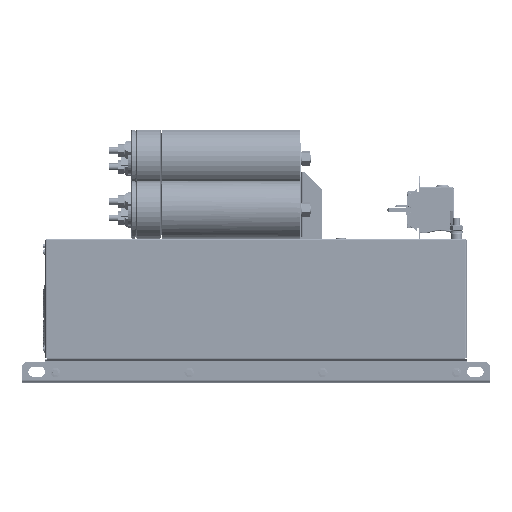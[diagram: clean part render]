
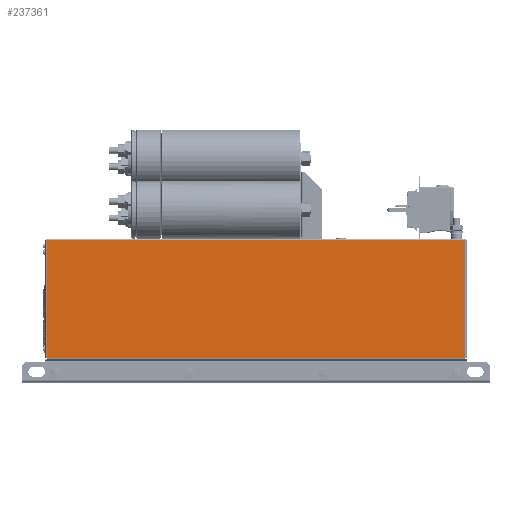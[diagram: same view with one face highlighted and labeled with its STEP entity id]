
A CAD part, left-side view. The second image highlights one B-rep face of the part: STEP entity #237361.
In plain terms, the highlighted planar face has unit normal (-1, 0, 0).
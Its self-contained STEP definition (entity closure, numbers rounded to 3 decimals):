
#13597=PLANE('',#252326);
#19286=FACE_OUTER_BOUND('',#33712,.T.);
#33712=EDGE_LOOP('',(#151687,#151688,#151689,#151690));
#48879=LINE('',#348165,#66819);
#49213=LINE('',#349051,#67153);
#49278=LINE('',#349749,#67218);
#49279=LINE('',#349750,#67219);
#66819=VECTOR('',#279083,10.);
#67153=VECTOR('',#279603,10.);
#67218=VECTOR('',#279776,10.);
#67219=VECTOR('',#279777,10.);
#93707=VERTEX_POINT('',#348158);
#93710=VERTEX_POINT('',#348163);
#94042=VERTEX_POINT('',#349037);
#94120=VERTEX_POINT('',#349748);
#115185=EDGE_CURVE('',#93707,#93710,#48879,.T.);
#115568=EDGE_CURVE('',#93710,#94042,#49213,.T.);
#115677=EDGE_CURVE('',#93707,#94120,#49278,.T.);
#115678=EDGE_CURVE('',#94120,#94042,#49279,.T.);
#151687=ORIENTED_EDGE('',*,*,#115677,.F.);
#151688=ORIENTED_EDGE('',*,*,#115185,.T.);
#151689=ORIENTED_EDGE('',*,*,#115568,.T.);
#151690=ORIENTED_EDGE('',*,*,#115678,.F.);
#237361=ADVANCED_FACE('',(#19286),#13597,.F.);
#252326=AXIS2_PLACEMENT_3D('',#349747,#279774,#279775);
#279083=DIRECTION('',(0.,1.,0.));
#279603=DIRECTION('',(0.,0.,-1.));
#279774=DIRECTION('center_axis',(1.,0.,0.));
#279775=DIRECTION('ref_axis',(0.,0.,
-1.));
#279776=DIRECTION('',(0.,0.,-1.));
#279777=DIRECTION('',(0.,1.,0.));
#348158=CARTESIAN_POINT('',(-225.,-312.7,212.7));
#348163=CARTESIAN_POINT('',(-225.,312.7,212.7));
#348165=CARTESIAN_POINT('',(-225.,315.,212.7));
#349037=CARTESIAN_POINT('',(-225.,312.7,36.353));
#349051=CARTESIAN_POINT('',(-225.,312.7,116.05));
#349747=CARTESIAN_POINT('Origin',(-225.,-315.,35.4));
#349748=CARTESIAN_POINT('',(-225.,-312.7,36.353));
#349749=CARTESIAN_POINT('',(-225.,-312.7,196.71));
#349750=CARTESIAN_POINT('',(-225.,-315.,36.353));
